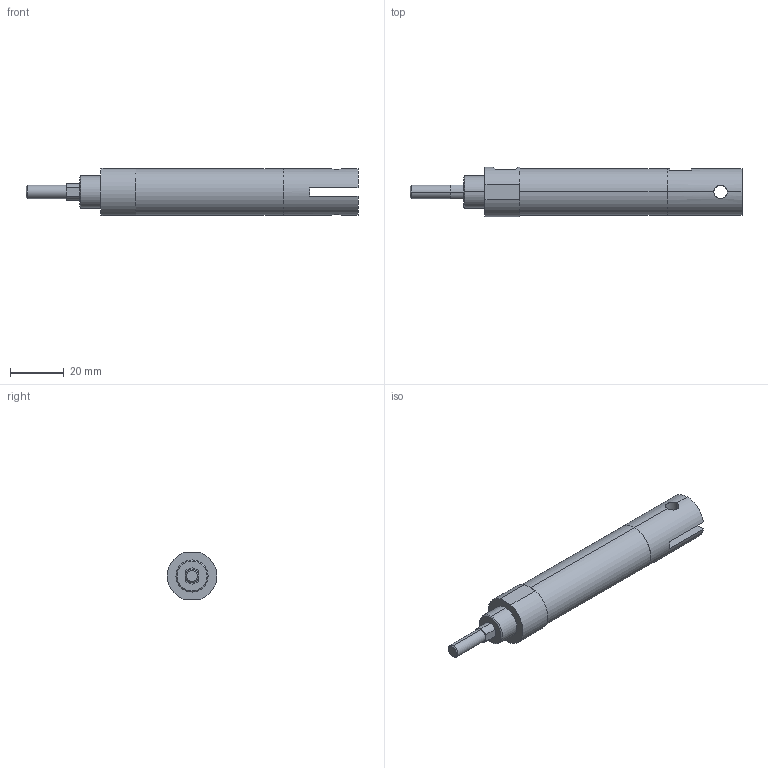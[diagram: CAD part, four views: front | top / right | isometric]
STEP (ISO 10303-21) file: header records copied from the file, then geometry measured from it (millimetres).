
FILE_DESCRIPTION (( 'STEP AP203' ), '1' );
FILE_NAME ('ZGU2-16-30-W.STEP', '2016-03-31T00:59:36', ( '' ), ( '' ), 'SwSTEP 2.0', 'SolidWorks 2014', '' );
FILE_SCHEMA (( 'CONFIG_CONTROL_DESIGN' ));
Length unit declared in the file: millimetre
Products named in the file (1): ZGU2-16-30-W
Bounding box: 124 x 18.46 x 17.6 mm (x, y, z)
Volume: 23019 mm3; surface area: 7313.4 mm2
Topology: 1 solids, 1 shells, 50 faces, 117 edges, 72 vertices
Faces by surface type: cylinder 21, plane 21, cone 8
Entity records: 1598 total; most frequent: CARTESIAN_POINT 358, DIRECTION 257, ORIENTED_EDGE 226, EDGE_CURVE 113, AXIS2_PLACEMENT_3D 99, VERTEX_POINT 72, EDGE_LOOP 61, LINE 59
